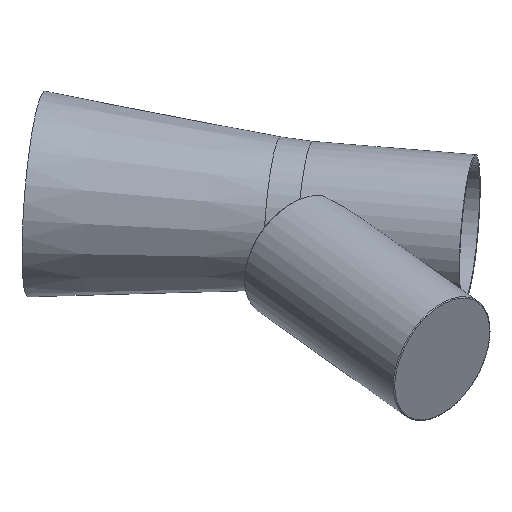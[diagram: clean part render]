
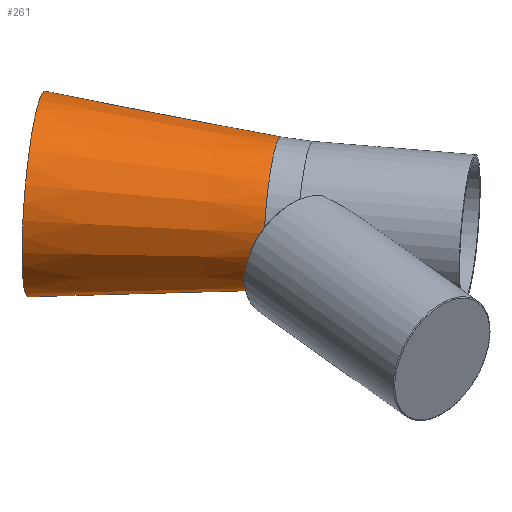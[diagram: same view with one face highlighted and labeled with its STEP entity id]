
A CAD part, isometric view. The second image highlights one B-rep face of the part: STEP entity #261.
In plain terms, the highlighted conical face has half-angle 6.252 degrees and reference radius 103 mm.
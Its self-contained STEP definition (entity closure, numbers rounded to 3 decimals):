
#33 = EDGE_LOOP ( 'NONE', ( #459 ) ) ;
#37 = AXIS2_PLACEMENT_3D ( 'NONE', #473, #421, #276 ) ;
#68 = EDGE_LOOP ( 'NONE', ( #547 ) ) ;
#69 = AXIS2_PLACEMENT_3D ( 'NONE', #510, #660, #400 ) ;
#85 = DIRECTION ( 'NONE',  ( 0.8, 0.601, 0. ) ) ;
#143 = VERTEX_POINT ( 'NONE', #555 ) ;
#209 = CARTESIAN_POINT ( 'NONE',  ( -84.06, 487.187, -0.349 ) ) ;
#242 = CARTESIAN_POINT ( 'NONE',  ( -1.732, 249.735, -0.349 ) ) ;
#247 = CIRCLE ( 'NONE', #37, 76.784 ) ;
#261 = ADVANCED_FACE ( 'NONE', ( #357, #292 ), #401, .T. ) ;
#276 = DIRECTION ( 'NONE',  ( -0.8, -0.601, 0. ) ) ;
#292 = FACE_OUTER_BOUND ( 'NONE', #68, .T. ) ;
#357 = FACE_BOUND ( 'NONE', #33, .T. ) ;
#385 = EDGE_CURVE ( 'NONE', #430, #430, #247, .T. ) ;
#400 = DIRECTION ( 'NONE',  ( -0.8, -0.601, 0. ) ) ;
#401 = CONICAL_SURFACE ( 'NONE', #69, 103., 0.109 ) ;
#421 = DIRECTION ( 'NONE',  ( -0.601, 0.8, 0. ) ) ;
#430 = VERTEX_POINT ( 'NONE', #242 ) ;
#436 = EDGE_CURVE ( 'NONE', #143, #143, #590, .T. ) ;
#459 = ORIENTED_EDGE ( 'NONE', *, *, #385, .T. ) ;
#473 = CARTESIAN_POINT ( 'NONE',  ( 59.662, 295.85, -0.349 ) ) ;
#510 = CARTESIAN_POINT ( 'NONE',  ( -84.06, 487.187, -0.349 ) ) ;
#547 = ORIENTED_EDGE ( 'NONE', *, *, #436, .T. ) ;
#548 = DIRECTION ( 'NONE',  ( 0.601, -0.8, 0. ) ) ;
#555 = CARTESIAN_POINT ( 'NONE',  ( -1.705, 549.048, -0.349 ) ) ;
#590 = CIRCLE ( 'NONE', #616, 103. ) ;
#616 = AXIS2_PLACEMENT_3D ( 'NONE', #209, #548, #85 ) ;
#660 = DIRECTION ( 'NONE',  ( -0.601, 0.8, 0. ) ) ;
